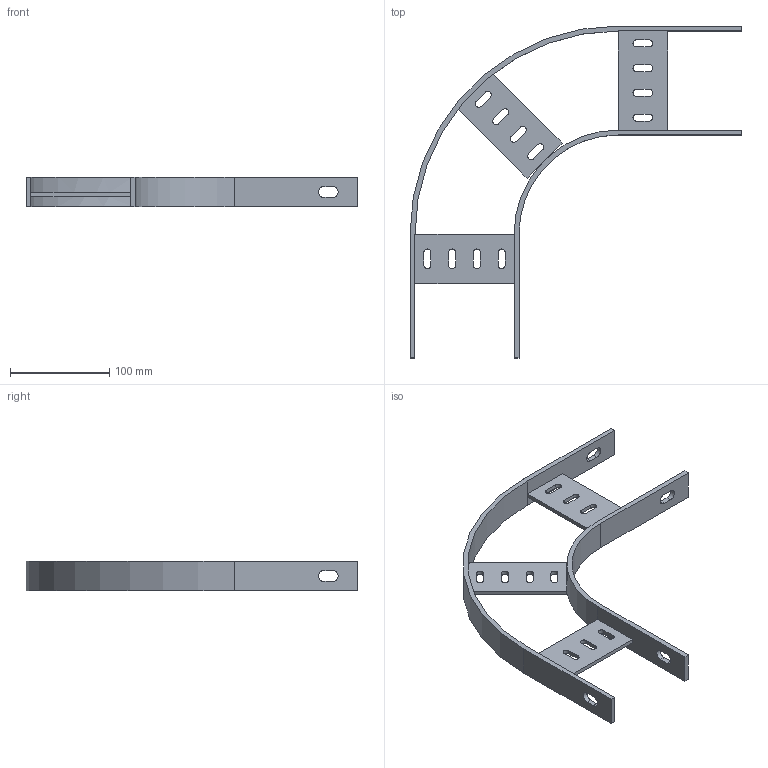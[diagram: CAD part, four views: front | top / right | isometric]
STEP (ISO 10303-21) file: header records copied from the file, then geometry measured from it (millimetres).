
FILE_DESCRIPTION(('Creo Elements/Direct Modeling STEP Export'),'2;1');
FILE_NAME('//pserver/office/EK/ME10-3D/3D-output/SLB 100F.stp','2020-03-10T15:06:23',(''),(''),'PTC Creo Elements/Direct Modeling STEP processor for AP214 (Solid Model)','PTC Creo Elements/Direct Modeling 19.0C 15-Aug-2015 (C) Parametric Technology GmbH','');
FILE_SCHEMA(('AUTOMOTIVE_DESIGN { 1 0 10303 214 1 1 1 1 }'));
Length unit declared in the file: millimetre
Products named in the file (1): SLB_100F
Bounding box: 335 x 335 x 30 mm (x, y, z)
Surface area: 99917.4 mm2 (no closed solid volume)
Topology: 0 solids, 1 shells, 98 faces, 286 edges, 188 vertices
Faces by surface type: plane 62, cylinder 36
Entity records: 3306 total; most frequent: ORIENTED_EDGE 576, CARTESIAN_POINT 565, DIRECTION 551, EDGE_CURVE 285, VECTOR 203, LINE 203, VERTEX_POINT 188, AXIS2_PLACEMENT_3D 174
